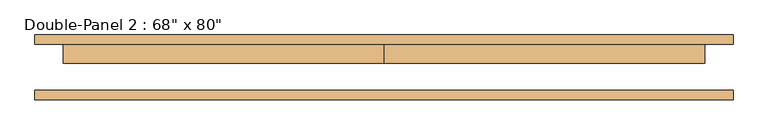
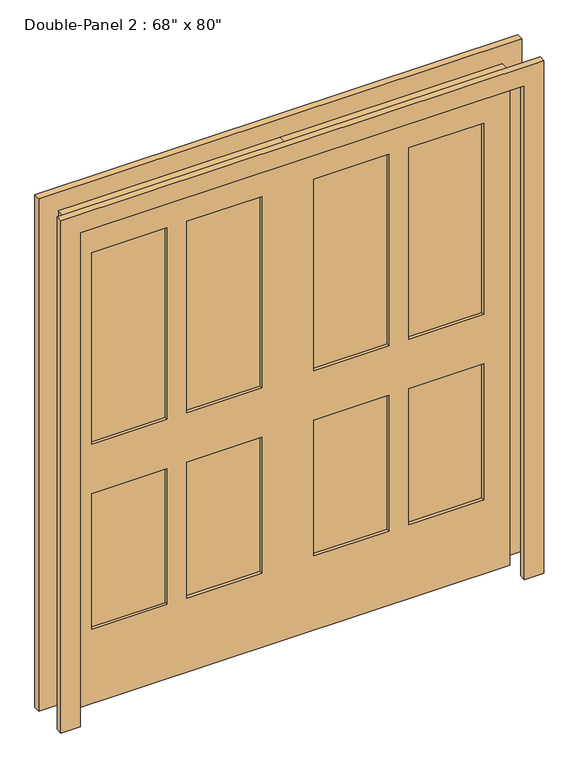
"""IFC4 building model written with IfcOpenShell, lengths in millimetres: door geometry."""

from ifc_helpers import new_model, si_unit, frame, origin, place, context, project, spatial, polyline, outline, extrude, source, transform, mapped, element, save


def door_c173eac2(model_context):
    return source(origin(), model_context, "Body", "SweptSolid", [
        extrude(outline(polyline([(2108.2, -939.8), (0.0, -939.8), (0.0, -863.6), (2032.0, -863.6), (2032.0, 863.6), (0.0, 863.6), (0.0, 939.8), (2108.2, 939.8), (2108.2, -939.8)])), frame((0.0, 61.9125, 0.0), z_axis=(0.0, 1.0, 0.0), x_axis=(0.0, 0.0, 1.0)), (0.0, 0.0, 1.0), 25.4),
        extrude(outline(polyline([(469.9, 49.2125), (762.0, 49.2125), (762.0, 23.8125), (469.9, 23.8125), (469.9, 49.2125)])), frame((0.0, 0.0, 1066.8), z_axis=(0.0, 0.0, 1.0), x_axis=(1.0, 0.0, 0.0)), (0.0, 0.0, 1.0), 787.4),
        extrude(outline(polyline([(101.6, 49.2125), (393.7, 49.2125), (393.7, 23.8125), (101.6, 23.8125), (101.6, 49.2125)])), frame((0.0, 0.0, 1066.8), z_axis=(0.0, 0.0, 1.0), x_axis=(1.0, 0.0, 0.0)), (0.0, 0.0, 1.0), 787.4),
        extrude(outline(polyline([(469.9, 49.2125), (762.0, 49.2125), (762.0, 23.8125), (469.9, 23.8125), (469.9, 49.2125)])), frame((0.0, 0.0, 304.8), z_axis=(0.0, 0.0, 1.0), x_axis=(1.0, 0.0, 0.0)), (0.0, 0.0, 1.0), 558.8),
        extrude(outline(polyline([(101.6, 49.2125), (393.7, 49.2125), (393.7, 23.8125), (101.6, 23.8125), (101.6, 49.2125)])), frame((0.0, 0.0, 304.8), z_axis=(0.0, 0.0, 1.0), x_axis=(1.0, 0.0, 0.0)), (0.0, 0.0, 1.0), 558.8),
        extrude(outline(polyline([(-393.7, 49.2125), (-101.6, 49.2125), (-101.6, 23.8125), (-393.7, 23.8125), (-393.7, 49.2125)])), frame((0.0, 0.0, 1066.8), z_axis=(0.0, 0.0, 1.0), x_axis=(1.0, 0.0, 0.0)), (0.0, 0.0, 1.0), 787.4),
        extrude(outline(polyline([(-762.0, 49.2125), (-469.9, 49.2125), (-469.9, 23.8125), (-762.0, 23.8125), (-762.0, 49.2125)])), frame((0.0, 0.0, 1066.8), z_axis=(0.0, 0.0, 1.0), x_axis=(1.0, 0.0, 0.0)), (0.0, 0.0, 1.0), 787.4),
        extrude(outline(polyline([(-393.7, 49.2125), (-101.6, 49.2125), (-101.6, 23.8125), (-393.7, 23.8125), (-393.7, 49.2125)])), frame((0.0, 0.0, 304.8), z_axis=(0.0, 0.0, 1.0), x_axis=(1.0, 0.0, 0.0)), (0.0, 0.0, 1.0), 558.8),
        extrude(outline(polyline([(-762.0, 49.2125), (-469.9, 49.2125), (-469.9, 23.8125), (-762.0, 23.8125), (-762.0, 49.2125)])), frame((0.0, 0.0, 304.8), z_axis=(0.0, 0.0, 1.0), x_axis=(1.0, 0.0, 0.0)), (0.0, 0.0, 1.0), 558.8),
        extrude(outline(polyline([(2032.0, 0.0), (2032.0, -863.6), (0.0, -863.6), (0.0, 0.0), (0.0, 863.6), (2032.0, 863.6), (2032.0, 0.0)]), holes=[polyline([(1854.2, 469.9), (1854.2, 762.0), (1066.8, 762.0), (1066.8, 469.9), (1854.2, 469.9)]), polyline([(1854.2, 101.6), (1854.2, 393.7), (1066.8, 393.7), (1066.8, 101.6), (1854.2, 101.6)]), polyline([(863.6, 469.9), (863.6, 762.0), (304.8, 762.0), (304.8, 469.9), (863.6, 469.9)]), polyline([(863.6, 101.6), (863.6, 393.7), (304.8, 393.7), (304.8, 101.6), (863.6, 101.6)]), polyline([(1066.8, -393.7), (1854.2, -393.7), (1854.2, -101.6), (1066.8, -101.6), (1066.8, -393.7)]), polyline([(1854.2, -762.0), (1854.2, -469.9), (1066.8, -469.9), (1066.8, -762.0), (1854.2, -762.0)]), polyline([(863.6, -393.7), (863.6, -101.6), (304.8, -101.6), (304.8, -393.7), (863.6, -393.7)]), polyline([(863.6, -762.0), (863.6, -469.9), (304.8, -469.9), (304.8, -762.0), (863.6, -762.0)])]), frame((0.0, 11.1125, 0.0), z_axis=(0.0, 1.0, 0.0), x_axis=(0.0, 0.0, 1.0)), (0.0, 0.0, 1.0), 50.8),
        extrude(outline(polyline([(2032.0, -863.6), (2032.0, 863.6), (0.0, 863.6), (0.0, 939.8), (2108.2, 939.8), (2108.2, -939.8), (0.0, -939.8), (0.0, -863.6), (2032.0, -863.6)])), frame((0.0, -87.3125, 0.0), z_axis=(0.0, 1.0, 0.0), x_axis=(0.0, 0.0, 1.0)), (0.0, 0.0, 1.0), 25.4),
    ])


if __name__ == "__main__":
    model = new_model("IFC4")
    model_context = context("Model", 3, world=origin())
    ifc_project = project(units=[si_unit("LENGTHUNIT", "METRE", prefix="MILLI")], contexts=[model_context])
    site = spatial("IfcSite", under=ifc_project)
    building = spatial("IfcBuilding", under=site)
    placement = place(None, origin())
    door_shape = door_c173eac2(model_context)
    element("IfcDoor", 1, ObjectType="Double-Panel 2 : 68\" x 80\"", at=placement, inside=building, context=model_context, shape_type="MappedRepresentation", body=[
        mapped(door_shape, transform((0.0, 0.0, 0.0), x_axis=(1.0, 0.0, 0.0), y_axis=(0.0, 1.0, 0.0), z_axis=(0.0, 0.0, 1.0))),
    ])
    save(model, "model.ifc")
